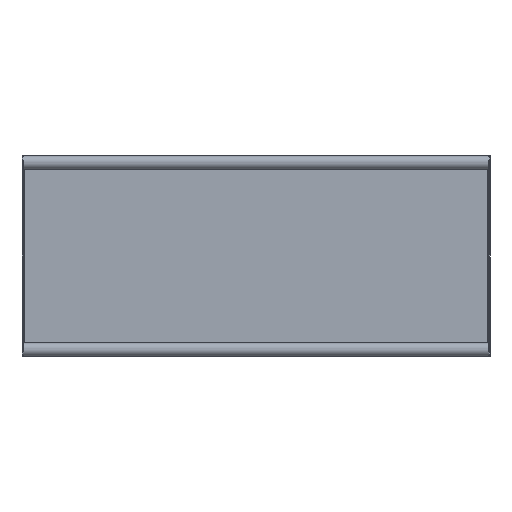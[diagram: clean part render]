
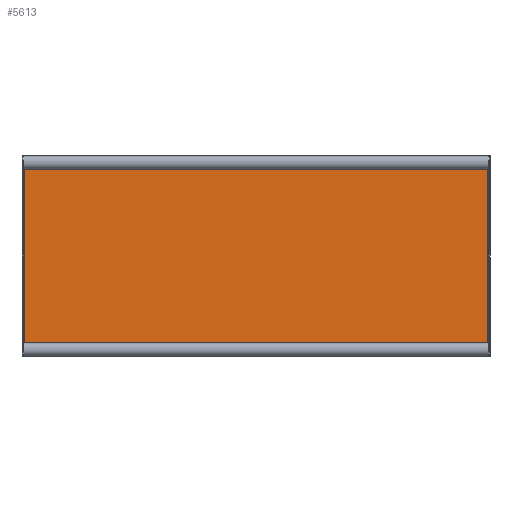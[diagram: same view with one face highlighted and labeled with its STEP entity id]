
A CAD part, front view. The second image highlights one B-rep face of the part: STEP entity #5613.
In plain terms, the highlighted planar face has unit normal (0, -1, 0).
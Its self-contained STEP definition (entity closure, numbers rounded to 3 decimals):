
#153 = CARTESIAN_POINT ( 'NONE',  ( -345., -2., 146. ) ) ;
#170 = CARTESIAN_POINT ( 'NONE',  ( -346., -2., -149. ) ) ;
#462 = CIRCLE ( 'NONE', #7097, 5. ) ;
#693 = ORIENTED_EDGE ( 'NONE', *, *, #2154, .F. ) ;
#767 = DIRECTION ( 'NONE',  ( 0., 1., 0. ) ) ;
#788 = DIRECTION ( 'NONE',  ( 1., 0., 0. ) ) ;
#871 = DIRECTION ( 'NONE',  ( 0., 0., 1. ) ) ;
#1138 = LINE ( 'NONE', #6702, #4236 ) ;
#1430 = DIRECTION ( 'NONE',  ( 0., 0., 1. ) ) ;
#1509 = ORIENTED_EDGE ( 'NONE', *, *, #8984, .F. ) ;
#1564 = DIRECTION ( 'NONE',  ( 0., 0., 1. ) ) ;
#1579 = ORIENTED_EDGE ( 'NONE', *, *, #1851, .F. ) ;
#1624 = CARTESIAN_POINT ( 'NONE',  ( 349., -2., 149. ) ) ;
#1760 = VERTEX_POINT ( 'NONE', #9853 ) ;
#1786 = CARTESIAN_POINT ( 'NONE',  ( -346., -2., 145. ) ) ;
#1851 = EDGE_CURVE ( 'NONE', #9416, #4803, #10059, .T. ) ;
#1976 = AXIS2_PLACEMENT_3D ( 'NONE', #5447, #2368, #3866 ) ;
#2052 = ORIENTED_EDGE ( 'NONE', *, *, #4595, .T. ) ;
#2154 = EDGE_CURVE ( 'NONE', #5991, #3971, #7034, .T. ) ;
#2166 = CARTESIAN_POINT ( 'NONE',  ( -349., -2., -149. ) ) ;
#2368 = DIRECTION ( 'NONE',  ( 0., -1., 0. ) ) ;
#2507 = CARTESIAN_POINT ( 'NONE',  ( 346., -2., -149. ) ) ;
#2514 = VECTOR ( 'NONE', #4719, 1000. ) ;
#2770 = VERTEX_POINT ( 'NONE', #153 ) ;
#3080 = CARTESIAN_POINT ( 'NONE',  ( -349., -2., 149. ) ) ;
#3173 = DIRECTION ( 'NONE',  ( 0., 0., 1. ) ) ;
#3254 = AXIS2_PLACEMENT_3D ( 'NONE', #3080, #5224, #1564 ) ;
#3734 = ORIENTED_EDGE ( 'NONE', *, *, #7460, .F. ) ;
#3866 = DIRECTION ( 'NONE',  ( 0., 0., 1. ) ) ;
#3905 = VERTEX_POINT ( 'NONE', #6150 ) ;
#3971 = VERTEX_POINT ( 'NONE', #4620 ) ;
#4236 = VECTOR ( 'NONE', #7393, 1000. ) ;
#4442 = EDGE_CURVE ( 'NONE', #5631, #9416, #462, .T. ) ;
#4478 = EDGE_LOOP ( 'NONE', ( #693, #2052, #8052, #3734, #1509, #1579, #8430, #7778 ) ) ;
#4518 = CARTESIAN_POINT ( 'NONE',  ( -345., -2., -146. ) ) ;
#4568 = DIRECTION ( 'NONE',  ( 0., -1., 0. ) ) ;
#4574 = CIRCLE ( 'NONE', #7815, 5. ) ;
#4595 = EDGE_CURVE ( 'NONE', #5991, #1760, #6395, .T. ) ;
#4620 = CARTESIAN_POINT ( 'NONE',  ( 345., -2., -146. ) ) ;
#4719 = DIRECTION ( 'NONE',  ( 0., 0., 1. ) ) ;
#4803 = VERTEX_POINT ( 'NONE', #1786 ) ;
#5224 = DIRECTION ( 'NONE',  ( 0., -1., 0. ) ) ;
#5293 = PLANE ( 'NONE',  #9130 ) ;
#5339 = FACE_OUTER_BOUND ( 'NONE', #4478, .T. ) ;
#5422 = CARTESIAN_POINT ( 'NONE',  ( -349., -2., 146. ) ) ;
#5447 = CARTESIAN_POINT ( 'NONE',  ( 349., -2., -149. ) ) ;
#5613 = ADVANCED_FACE ( 'NONE', ( #5339 ), #5293, .F. ) ;
#5631 = VERTEX_POINT ( 'NONE', #4518 ) ;
#5991 = VERTEX_POINT ( 'NONE', #8693 ) ;
#6150 = CARTESIAN_POINT ( 'NONE',  ( 345., -2., 146. ) ) ;
#6395 = LINE ( 'NONE', #2507, #2514 ) ;
#6702 = CARTESIAN_POINT ( 'NONE',  ( -349., -2., -146. ) ) ;
#6780 = CARTESIAN_POINT ( 'NONE',  ( -349., -2., -149. ) ) ;
#6788 = EDGE_CURVE ( 'NONE', #5631, #3971, #1138, .T. ) ;
#7020 = VECTOR ( 'NONE', #788, 1000. ) ;
#7034 = CIRCLE ( 'NONE', #1976, 5. ) ;
#7097 = AXIS2_PLACEMENT_3D ( 'NONE', #2166, #4568, #9248 ) ;
#7393 = DIRECTION ( 'NONE',  ( 1., 0., 0. ) ) ;
#7460 = EDGE_CURVE ( 'NONE', #2770, #3905, #9040, .T. ) ;
#7658 = CIRCLE ( 'NONE', #3254, 5. ) ;
#7778 = ORIENTED_EDGE ( 'NONE', *, *, #6788, .T. ) ;
#7787 = EDGE_CURVE ( 'NONE', #3905, #1760, #4574, .T. ) ;
#7815 = AXIS2_PLACEMENT_3D ( 'NONE', #1624, #7837, #871 ) ;
#7817 = VECTOR ( 'NONE', #3173, 1000. ) ;
#7837 = DIRECTION ( 'NONE',  ( 0., -1., 0. ) ) ;
#8052 = ORIENTED_EDGE ( 'NONE', *, *, #7787, .F. ) ;
#8430 = ORIENTED_EDGE ( 'NONE', *, *, #4442, .F. ) ;
#8693 = CARTESIAN_POINT ( 'NONE',  ( 346., -2., -145. ) ) ;
#8984 = EDGE_CURVE ( 'NONE', #4803, #2770, #7658, .T. ) ;
#9040 = LINE ( 'NONE', #5422, #7020 ) ;
#9130 = AXIS2_PLACEMENT_3D ( 'NONE', #6780, #767, #1430 ) ;
#9248 = DIRECTION ( 'NONE',  ( 0., 0., 1. ) ) ;
#9333 = CARTESIAN_POINT ( 'NONE',  ( -346., -2., -145. ) ) ;
#9416 = VERTEX_POINT ( 'NONE', #9333 ) ;
#9853 = CARTESIAN_POINT ( 'NONE',  ( 346., -2., 145. ) ) ;
#10059 = LINE ( 'NONE', #170, #7817 ) ;
